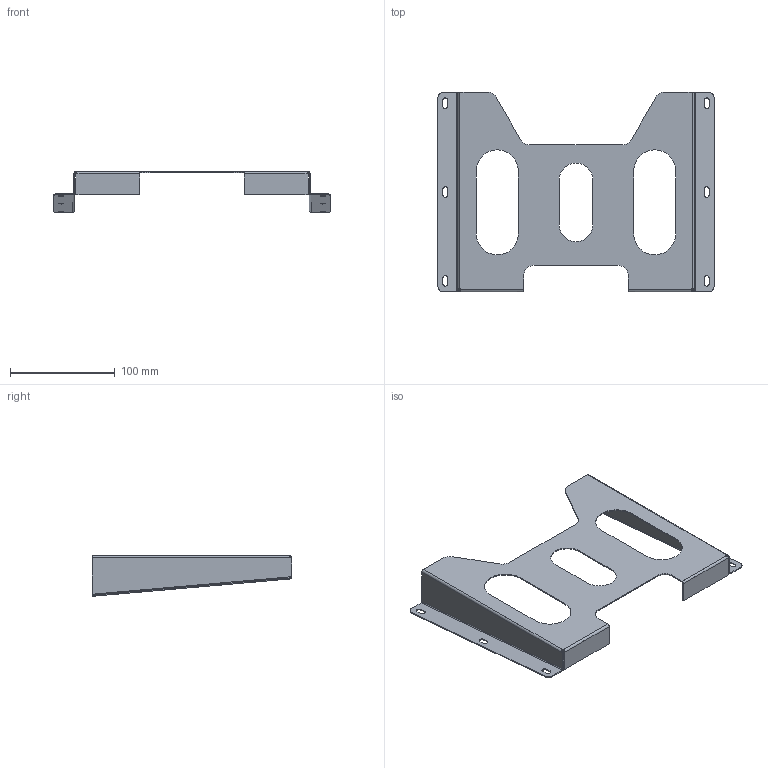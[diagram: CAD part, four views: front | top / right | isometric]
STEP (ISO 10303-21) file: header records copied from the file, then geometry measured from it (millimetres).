
FILE_DESCRIPTION (( 'STEP AP203' ), '1' );
FILE_NAME ('ORW-72.24.20.10.010 忺謽鳧.STEP', '2025-10-13T13:18:56', ( '燴僽樥' ), ( '' ), 'SwSTEP 2.0', 'SolidWorks 2025', '' );
FILE_SCHEMA (( 'CONFIG_CONTROL_DESIGN' ));
Length unit declared in the file: millimetre
Products named in the file (1): ORW-72.24.20.10.010 Карман
Bounding box: 263 x 190.17 x 38.62 mm (x, y, z)
Volume: 44412.2 mm3; surface area: 90854.2 mm2
Topology: 1 solids, 1 shells, 122 faces, 312 edges, 192 vertices
Faces by surface type: plane 70, cylinder 44, bspline 8
Entity records: 3843 total; most frequent: CARTESIAN_POINT 823, ORIENTED_EDGE 624, DIRECTION 586, EDGE_CURVE 312, VECTOR 196, LINE 196, AXIS2_PLACEMENT_3D 195, VERTEX_POINT 192
